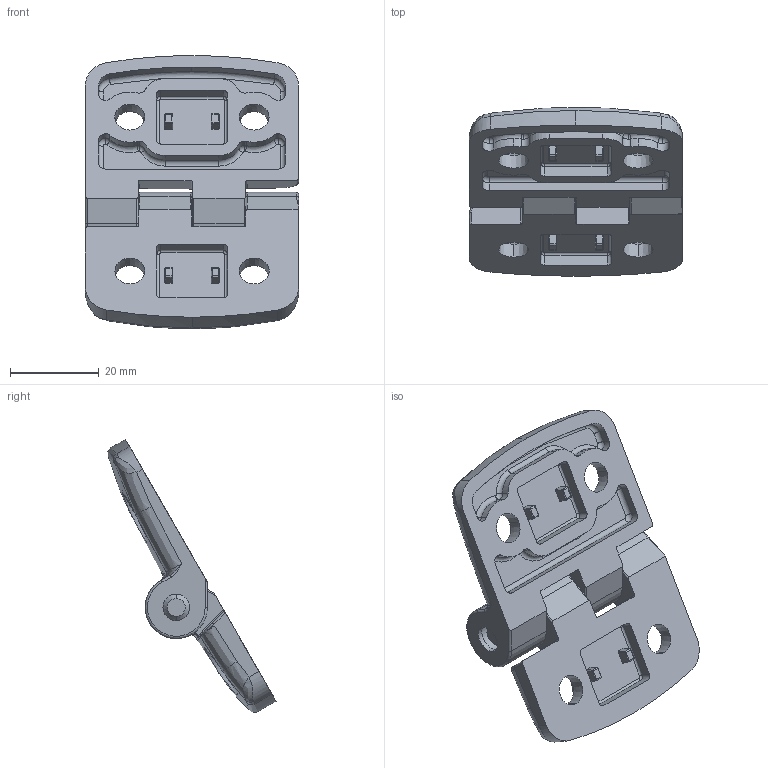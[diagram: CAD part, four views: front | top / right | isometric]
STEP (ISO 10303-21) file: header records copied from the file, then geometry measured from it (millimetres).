
FILE_DESCRIPTION (( 'STEP AP214' ), '1' );
FILE_NAME ('095A3040F.STEP', '2013-08-19T11:57:57', ( 'User' ), ( '' ), 'SwSTEP 2.0', 'SolidWorks 2012', '' );
FILE_SCHEMA (( 'AUTOMOTIVE_DESIGN' ));
Length unit declared in the file: millimetre
Products named in the file (4): 095a40f_095A40FB - 127447; 095a25f_095A30F - 114339; 095a-01e_6-41; 095A3040F
Assembly tree (3 placements, depth 2):
  095A3040F
    095a-01e_6-41
    095a25f_095A30F - 114339
    095a40f_095A40FB - 127447
Bounding box: 48.02 x 37.84 x 61.48 mm (x, y, z)
Volume: 20840.9 mm3; surface area: 12359.6 mm2
Topology: 3 solids, 3 shells, 369 faces, 903 edges, 534 vertices
Faces by surface type: cylinder 135, torus 70, plane 67, bspline 67, cone 29, sphere 1
Entity records: 13817 total; most frequent: CARTESIAN_POINT 5440, ORIENTED_EDGE 1780, DIRECTION 1695, EDGE_CURVE 890, AXIS2_PLACEMENT_3D 698, VERTEX_POINT 534, EDGE_LOOP 392, CIRCLE 390
